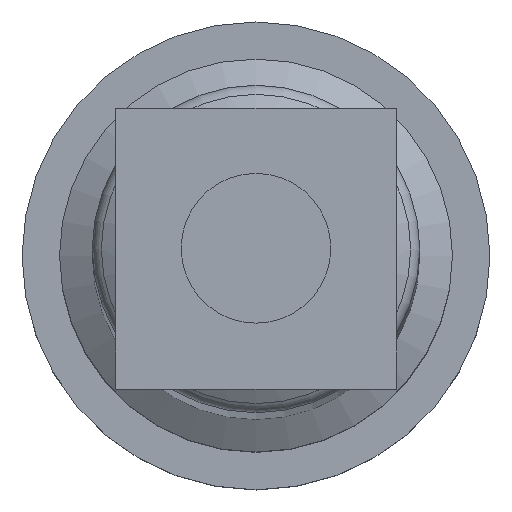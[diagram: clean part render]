
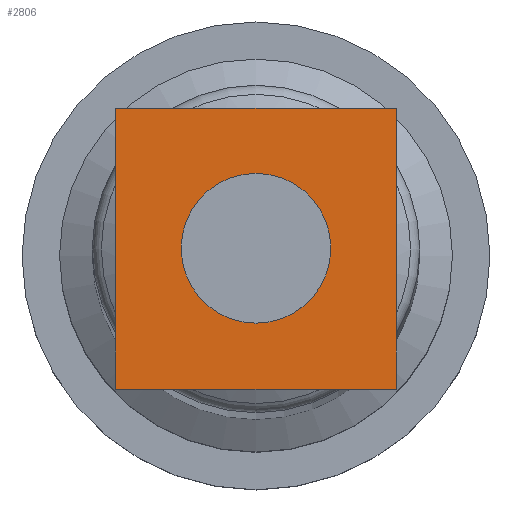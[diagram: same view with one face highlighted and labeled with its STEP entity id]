
A CAD part, top view. The second image highlights one B-rep face of the part: STEP entity #2806.
In plain terms, the highlighted planar face has unit normal (0, 0, -1).
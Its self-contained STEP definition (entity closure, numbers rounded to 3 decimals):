
#148 = FACE_OUTER_BOUND ( 'NONE', #3367, .T. ) ;
#320 = VECTOR ( 'NONE', #3351, 1000. ) ;
#381 = EDGE_CURVE ( 'NONE', #3410, #1723, #3792, .T. ) ;
#526 = DIRECTION ( 'NONE',  ( 0., 1., 0. ) ) ;
#1007 = CARTESIAN_POINT ( 'NONE',  ( 0., 0., 465. ) ) ;
#1073 = DIRECTION ( 'NONE',  ( -1., 0., 0. ) ) ;
#1119 = ORIENTED_EDGE ( 'NONE', *, *, #1377, .T. ) ;
#1348 = EDGE_CURVE ( 'NONE', #2707, #3620, #1517, .T. ) ;
#1377 = EDGE_CURVE ( 'NONE', #3620, #3410, #4800, .T. ) ;
#1517 = LINE ( 'NONE', #2364, #320 ) ;
#1723 = VERTEX_POINT ( 'NONE', #4021 ) ;
#1764 = ORIENTED_EDGE ( 'NONE', *, *, #4536, .T. ) ;
#1831 = CARTESIAN_POINT ( 'NONE',  ( -15., -15., 465. ) ) ;
#1888 = DIRECTION ( 'NONE',  ( 1., 0., 0. ) ) ;
#2239 = CARTESIAN_POINT ( 'NONE',  ( -15., 15., 465. ) ) ;
#2349 = ORIENTED_EDGE ( 'NONE', *, *, #1348, .T. ) ;
#2364 = CARTESIAN_POINT ( 'NONE',  ( 15., 15., 465. ) ) ;
#2707 = VERTEX_POINT ( 'NONE', #4889 ) ;
#2806 = ADVANCED_FACE ( 'NONE', ( #148 ), #5330, .T. ) ;
#2965 = CARTESIAN_POINT ( 'NONE',  ( 15., -15., 465. ) ) ;
#3242 = CARTESIAN_POINT ( 'NONE',  ( 15., 15., 465. ) ) ;
#3351 = DIRECTION ( 'NONE',  ( 0., -1., 0. ) ) ;
#3367 = EDGE_LOOP ( 'NONE', ( #2349, #1119, #4895, #1764 ) ) ;
#3372 = CARTESIAN_POINT ( 'NONE',  ( 15., -15., 465. ) ) ;
#3403 = DIRECTION ( 'NONE',  ( 0., 0., -1. ) ) ;
#3410 = VERTEX_POINT ( 'NONE', #1831 ) ;
#3587 = VECTOR ( 'NONE', #526, 1000. ) ;
#3620 = VERTEX_POINT ( 'NONE', #2965 ) ;
#3792 = LINE ( 'NONE', #2239, #3587 ) ;
#4021 = CARTESIAN_POINT ( 'NONE',  ( -15., 15., 465. ) ) ;
#4071 = VECTOR ( 'NONE', #1073, 1000. ) ;
#4536 = EDGE_CURVE ( 'NONE', #1723, #2707, #4985, .T. ) ;
#4800 = LINE ( 'NONE', #3372, #4071 ) ;
#4863 = DIRECTION ( 'NONE',  ( -1., 0., 0. ) ) ;
#4889 = CARTESIAN_POINT ( 'NONE',  ( 15., 15., 465. ) ) ;
#4895 = ORIENTED_EDGE ( 'NONE', *, *, #381, .T. ) ;
#4985 = LINE ( 'NONE', #3242, #5057 ) ;
#5057 = VECTOR ( 'NONE', #1888, 1000. ) ;
#5330 = PLANE ( 'NONE',  #5455 ) ;
#5455 = AXIS2_PLACEMENT_3D ( 'NONE', #1007, #3403, #4863 ) ;
